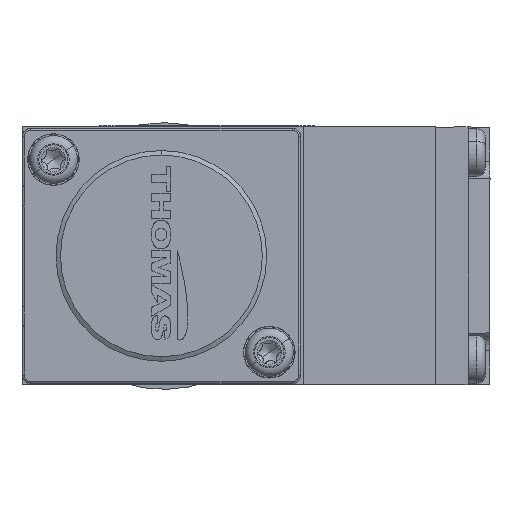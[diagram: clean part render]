
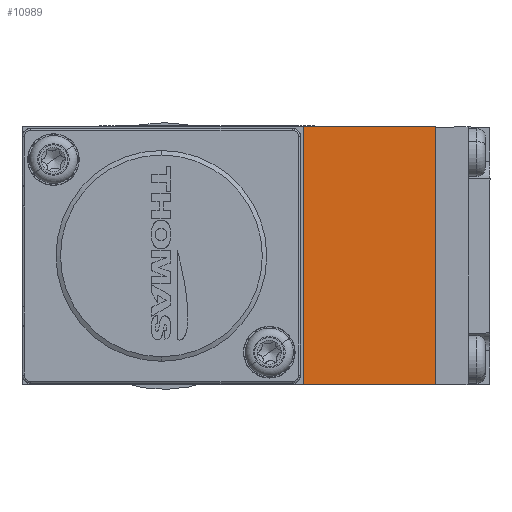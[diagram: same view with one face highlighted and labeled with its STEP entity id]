
A CAD part, left-side view. The second image highlights one B-rep face of the part: STEP entity #10989.
In plain terms, the highlighted planar face has unit normal (-1, 0, 0).
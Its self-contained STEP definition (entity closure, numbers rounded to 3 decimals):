
#2923 = LINE ( 'NONE', #29521, #33788 ) ;
#3315 = EDGE_CURVE ( 'NONE', #25418, #23971, #4099, .T. ) ;
#4099 = LINE ( 'NONE', #4971, #9263 ) ;
#4971 = CARTESIAN_POINT ( 'NONE',  ( -21., -31.603, -15. ) ) ;
#6722 = DIRECTION ( 'NONE',  ( 0., 0., -1. ) ) ;
#9263 = VECTOR ( 'NONE', #19789, 1000. ) ;
#10101 = CARTESIAN_POINT ( 'NONE',  ( -21., -74.03, -15. ) ) ;
#10602 = EDGE_CURVE ( 'NONE', #23971, #36079, #10757, .T. ) ;
#10757 = LINE ( 'NONE', #25554, #24788 ) ;
#10773 = LINE ( 'NONE', #35669, #20607 ) ;
#10989 = ADVANCED_FACE ( 'NONE', ( #16335 ), #24628, .T. ) ;
#13002 = DIRECTION ( 'NONE',  ( -1., 0., 0. ) ) ;
#13426 = EDGE_LOOP ( 'NONE', ( #29234, #15538, #38308, #27549 ) ) ;
#15538 = ORIENTED_EDGE ( 'NONE', *, *, #31059, .T. ) ;
#16335 = FACE_OUTER_BOUND ( 'NONE', #13426, .T. ) ;
#19789 = DIRECTION ( 'NONE',  ( 0., 0., 1. ) ) ;
#20607 = VECTOR ( 'NONE', #29398, 1000. ) ;
#20782 = CARTESIAN_POINT ( 'NONE',  ( -21., -16.225, -15. ) ) ;
#22519 = AXIS2_PLACEMENT_3D ( 'NONE', #10101, #13002, #6722 ) ;
#23971 = VERTEX_POINT ( 'NONE', #25633 ) ;
#24278 = VERTEX_POINT ( 'NONE', #20782 ) ;
#24628 = PLANE ( 'NONE',  #22519 ) ;
#24788 = VECTOR ( 'NONE', #37136, 1000. ) ;
#25418 = VERTEX_POINT ( 'NONE', #36441 ) ;
#25554 = CARTESIAN_POINT ( 'NONE',  ( -21., -74.03, 15. ) ) ;
#25633 = CARTESIAN_POINT ( 'NONE',  ( -21., -31.603, 15. ) ) ;
#26365 = EDGE_CURVE ( 'NONE', #25418, #24278, #10773, .T. ) ;
#27549 = ORIENTED_EDGE ( 'NONE', *, *, #3315, .T. ) ;
#29234 = ORIENTED_EDGE ( 'NONE', *, *, #10602, .T. ) ;
#29349 = CARTESIAN_POINT ( 'NONE',  ( -21., -16.225, 15. ) ) ;
#29398 = DIRECTION ( 'NONE',  ( 0., 1., 0. ) ) ;
#29521 = CARTESIAN_POINT ( 'NONE',  ( -21., -16.225, -15. ) ) ;
#29651 = DIRECTION ( 'NONE',  ( 0., 0., -1. ) ) ;
#31059 = EDGE_CURVE ( 'NONE', #36079, #24278, #2923, .T. ) ;
#33788 = VECTOR ( 'NONE', #29651, 1000. ) ;
#35669 = CARTESIAN_POINT ( 'NONE',  ( -21., -74.03, -15. ) ) ;
#36079 = VERTEX_POINT ( 'NONE', #29349 ) ;
#36441 = CARTESIAN_POINT ( 'NONE',  ( -21., -31.603, -15. ) ) ;
#37136 = DIRECTION ( 'NONE',  ( 0., 1., 0. ) ) ;
#38308 = ORIENTED_EDGE ( 'NONE', *, *, #26365, .F. ) ;
